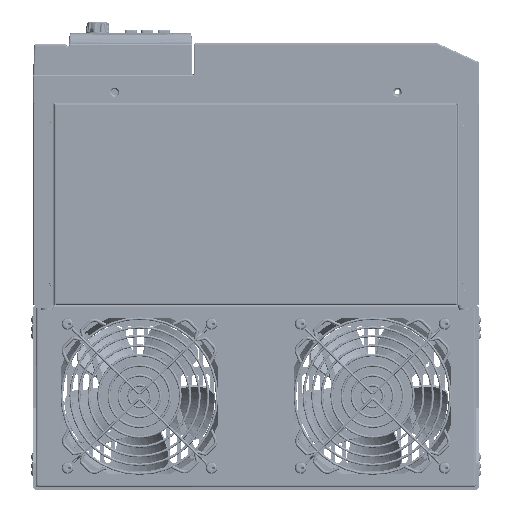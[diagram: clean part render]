
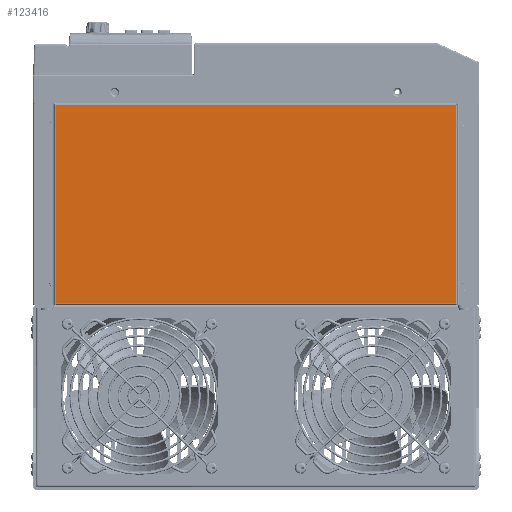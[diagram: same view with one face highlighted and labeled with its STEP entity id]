
A CAD part, front view. The second image highlights one B-rep face of the part: STEP entity #123416.
In plain terms, the highlighted planar face has unit normal (0, -1, 0).
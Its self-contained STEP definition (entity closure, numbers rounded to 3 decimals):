
#105524=DIRECTION('',(0.,0.,-1.));
#105525=VECTOR('',#105524,291.6);
#105526=CARTESIAN_POINT('',(-72.3,0.,145.8));
#105527=LINE('',#105526,#105525);
#105566=DIRECTION('',(-1.,0.,0.));
#105567=VECTOR('',#105566,144.6);
#105568=CARTESIAN_POINT('',(72.3,0.,145.8));
#105569=LINE('',#105568,#105567);
#108816=DIRECTION('',(1.,0.,0.));
#108817=VECTOR('',#108816,144.6);
#108818=CARTESIAN_POINT('',(-72.3,0.,-145.8));
#108819=LINE('',#108818,#108817);
#110034=DIRECTION('',(0.,0.,1.));
#110035=VECTOR('',#110034,291.6);
#110036=CARTESIAN_POINT('',(72.3,0.,-145.8));
#110037=LINE('',#110036,#110035);
#119773=CARTESIAN_POINT('',(-72.3,0.,145.8));
#119774=VERTEX_POINT('',#119773);
#119784=CARTESIAN_POINT('',(-72.3,0.,-145.8));
#119785=VERTEX_POINT('',#119784);
#119787=CARTESIAN_POINT('',(72.3,0.,145.8));
#119788=VERTEX_POINT('',#119787);
#119789=CARTESIAN_POINT('',(72.3,0.,-145.8));
#119790=VERTEX_POINT('',#119789);
#123402=CARTESIAN_POINT('',(-73.5,0.,147.));
#123403=DIRECTION('',(0.,-1.,0.));
#123404=DIRECTION('',(0.,0.,-1.));
#123405=AXIS2_PLACEMENT_3D('',#123402,#123403,#123404);
#123406=PLANE('',#123405);
#123407=ORIENTED_EDGE('',*,*,#123396,.F.);
#123409=ORIENTED_EDGE('',*,*,#123408,.F.);
#123411=ORIENTED_EDGE('',*,*,#123410,.F.);
#123413=ORIENTED_EDGE('',*,*,#123412,.F.);
#123414=EDGE_LOOP('',(#123407,#123409,#123411,#123413));
#123415=FACE_OUTER_BOUND('',#123414,.F.);
#123396=EDGE_CURVE('',#119774,#119785,#105527,.T.);
#123408=EDGE_CURVE('',#119788,#119774,#105569,.T.);
#123410=EDGE_CURVE('',#119790,#119788,#110037,.T.);
#123412=EDGE_CURVE('',#119785,#119790,#108819,.T.);
#123416=ADVANCED_FACE('',(#123415),#123406,.T.);
